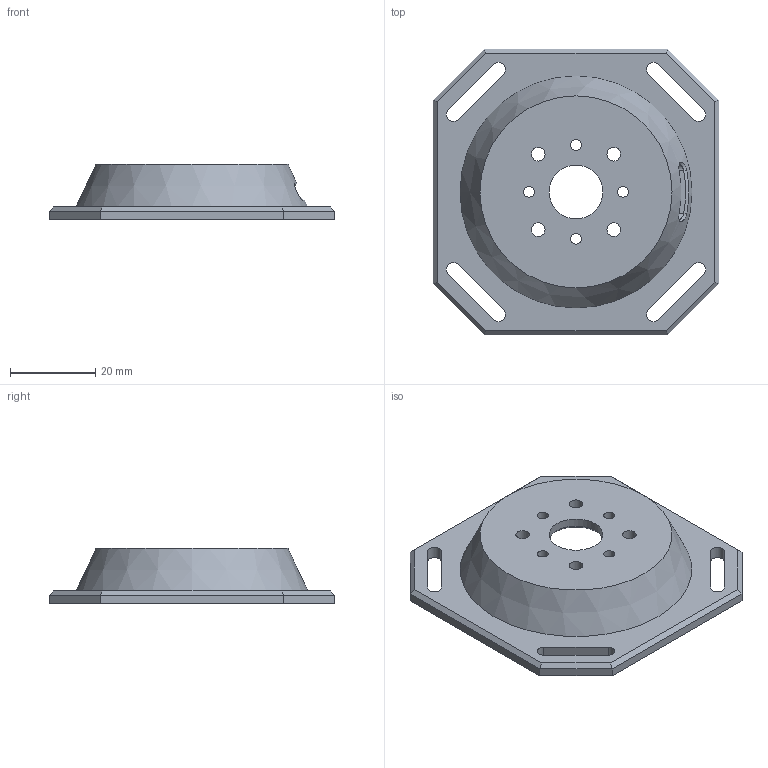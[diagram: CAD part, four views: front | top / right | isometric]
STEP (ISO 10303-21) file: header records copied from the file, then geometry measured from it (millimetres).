
FILE_DESCRIPTION(/* description */ (''),/* implementation_level */ '2;1');
FILE_NAME(/* name */ '',/* time_stamp */ '2026-01-25T17:06:40+08:00',/* author */ (''),/* organization */ (''),/* preprocessor_version */ 'ST-DEVELOPER v20.1',/* originating_system */ 'Autodesk Translation Framework v14.24.0.0',/* authorisation */ '');
FILE_SCHEMA (('AUTOMOTIVE_DESIGN { 1 0 10303 214 3 1 1 }'));
Length unit declared in the file: millimetre
Products named in the file (1): 云台底座
Bounding box: 67 x 67 x 13 mm (x, y, z)
Volume: 14053.9 mm3; surface area: 10838.9 mm2
Topology: 1 solids, 1 shells, 69 faces, 177 edges, 112 vertices
Faces by surface type: plane 30, cylinder 19, bspline 12, cone 8
Full cylindrical faces by diameter (mm): 2.529 x4, 3.2 x4, 12.6 x1
Entity records: 2627 total; most frequent: CARTESIAN_POINT 899, ORIENTED_EDGE 354, DIRECTION 317, EDGE_CURVE 177, VERTEX_POINT 112, AXIS2_PLACEMENT_3D 106, LINE 105, VECTOR 105
